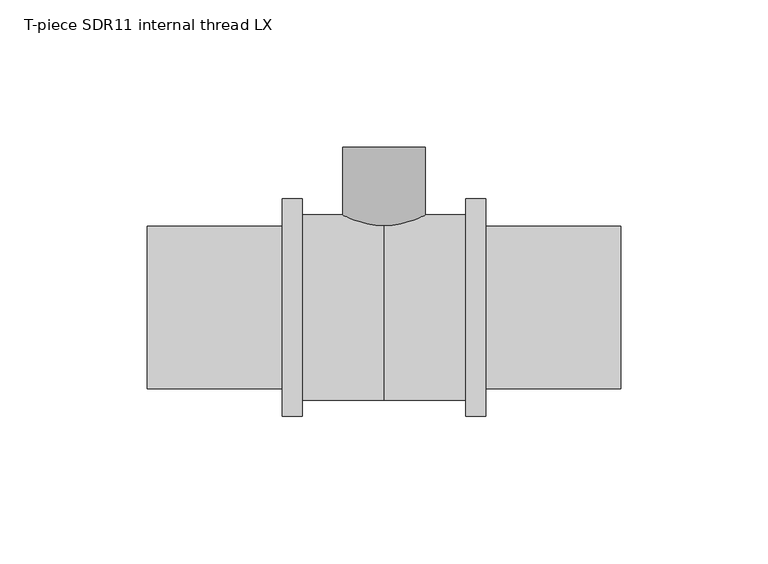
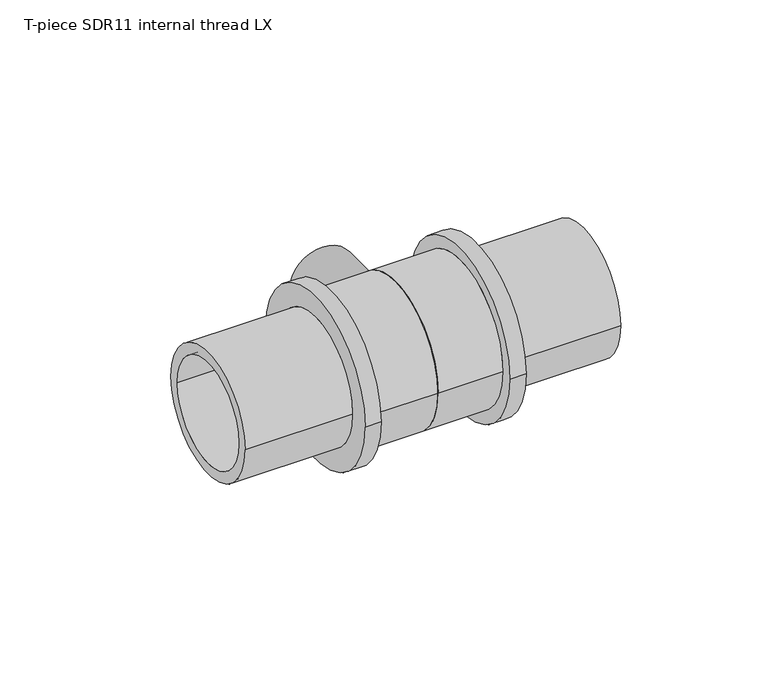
"""IFC4 building model written with IfcOpenShell, lengths in millimetres: pipe fitting geometry, T-piece SDR11 internal thread LX : T-piece LX SDR11 internal LX."""

from ifc_helpers import new_model, si_unit, point, frame, origin, place, context, project, spatial, polyline, circle_curve, ellipse_curve, trimmed, source, transform, mapped, element, save
from ifc_brep_helpers import plane_surface, cylinder_surface, revolved_surface, advanced_brep


def t_piece_sdr11_internal_thread_lx_0327bc4c(model_context):
    return source(origin(), model_context, "Body", "AdvancedBrep", [
        advanced_brep(
        [(9.95, 9.45, 0.0), (-9.95, 9.45, 0.0), (-9.95, 54.5, 0.0), (9.95, 54.5, 0.0), (0.5, 0.0, 0.0), (-0.5, 0.0, 0.0), (13.2683856, 7.0408207, 0.0), (-13.2683856, 7.0408207, 0.0), (-6.2275649, 0.0, 0.0), (6.2275649, 0.0, 0.0), (14.0, 8.8070941, 0.0), (-14.0, 8.8070941, 0.0), (14.0, 54.5, 0.0), (-14.0, 54.5, 0.0)],
        [
            (0, 1, circle_curve(frame((0.0, 9.45, 0.0), z_axis=(0.0, -1.0, 0.0), x_axis=(-1.0, 0.0, 0.0)), 9.95)),
            (1, 2),
            (2, 3, circle_curve(frame((0.0, 54.5, 0.0), z_axis=(0.0, 1.0, 0.0), x_axis=(-1.0, 0.0, 0.0)), 9.95)),
            (3, 0),
            (4, 5, circle_curve(frame((0.0, 0.0, 0.0), z_axis=(0.0, -1.0, 0.0), x_axis=(-1.0, 0.0, 0.0)), 0.5)),
            (5, 1),
            (0, 4),
            (6, 7, circle_curve(frame((0.0, 7.0408207, 0.0), z_axis=(0.0, -1.0, 0.0), x_axis=(-1.0, 0.0, 0.0)), 13.2683856)),
            (7, 8),
            (8, 9, circle_curve(frame((0.0, 0.0, 0.0), z_axis=(0.0, 1.0, 0.0), x_axis=(-1.0, 0.0, 0.0)), 6.2275649)),
            (9, 6),
            (10, 11, circle_curve(frame((0.0, 8.8070941, 0.0), z_axis=(0.0, -1.0, 0.0), x_axis=(-1.0, 0.0, 0.0)), 14.0)),
            (11, 7, circle_curve(frame((-9.95, 9.45, 0.0), z_axis=(0.0, 0.0, 1.0), x_axis=(0.0, 1.0, 0.0)), 4.1007107)),
            (6, 10, circle_curve(frame((9.95, 9.45, 0.0), z_axis=(0.0, 0.0, 1.0), x_axis=(0.0, 1.0, 0.0)), 4.1007107)),
            (12, 13, circle_curve(frame((0.0, 54.5, 0.0), z_axis=(0.0, -1.0, 0.0), x_axis=(-1.0, 0.0, 0.0)), 14.0)),
            (13, 11),
            (10, 12),
            (12, 13, circle_curve(frame((0.0, 54.5, 0.0), z_axis=(0.0, 1.0, 0.0), x_axis=(1.0, 0.0, 0.0)), 14.0)),
            (2, 3, circle_curve(frame((0.0, 54.5, 0.0), z_axis=(0.0, -1.0, 0.0), x_axis=(1.0, 0.0, 0.0)), 9.95)),
            (1, 0, circle_curve(frame((0.0, 9.45, 0.0), z_axis=(0.0, -1.0, 0.0), x_axis=(1.0, 0.0, 0.0)), 9.95)),
            (5, 4, circle_curve(frame((0.0, 0.0, 0.0), z_axis=(0.0, -1.0, 0.0), x_axis=(1.0, 0.0, 0.0)), 0.5)),
            (8, 9, circle_curve(frame((0.0, 0.0, 0.0), z_axis=(0.0, -1.0, 0.0), x_axis=(1.0, 0.0, 0.0)), 6.2275649)),
            (7, 6, circle_curve(frame((0.0, 7.0408207, 0.0), z_axis=(0.0, -1.0, 0.0), x_axis=(1.0, 0.0, 0.0)), 13.2683856)),
            (11, 10, circle_curve(frame((0.0, 8.8070941, 0.0), z_axis=(0.0, -1.0, 0.0), x_axis=(1.0, 0.0, 0.0)), 14.0)),
        ],
        [
            revolved_surface(polyline([(-9.95, 54.5, 0.0), (-9.95, 9.45, 0.0)]), (0.0, 0.0, 0.0), (0.0, 1.0, 0.0)),
            revolved_surface(polyline([(-9.95, 9.45, 0.0), (-0.5, 0.0, 0.0)]), (0.0, 0.0, 0.0), (0.0, 1.0, 0.0)),
            revolved_surface(polyline([(-6.2275649, 0.0, 0.0), (-13.2683856, 7.0408207, 0.0)]), (0.0, 0.0, 0.0), (0.0, 1.0, 0.0)),
            revolved_surface(trimmed(ellipse_curve(frame((-9.95, 9.45, 0.0), z_axis=(0.0, 0.0, -1.0), x_axis=(0.0, 1.0, 0.0)), 4.1007107, 4.1007107), [point((-13.2683856, 7.0408207, 0.0))], [point((-14.0, 8.8070941, 0.0))], True, "CARTESIAN"), (0.0, 0.0, 0.0), (0.0, 1.0, 0.0)),
            cylinder_surface(frame((0.0, 0.0, 0.0), z_axis=(0.0, 1.0, 0.0), x_axis=(-1.0, 0.0, 0.0)), 14.0),
            plane_surface(frame((0.0, 54.5, 0.0), z_axis=(0.0, 1.0, 0.0), x_axis=(1.0, 0.0, 0.0))),
            revolved_surface(polyline([(9.95, 54.5, 0.0), (9.95, 9.45, 0.0)]), (0.0, 0.0, 0.0), (0.0, 1.0, 0.0)),
            revolved_surface(polyline([(9.95, 9.45, 0.0), (0.5, 0.0, 0.0)]), (0.0, 0.0, 0.0), (0.0, 1.0, 0.0)),
            plane_surface(frame((0.0, 0.0, 0.0), z_axis=(0.0, -1.0, 0.0), x_axis=(1.0, 0.0, 0.0))),
            revolved_surface(polyline([(6.2275649, 0.0, 0.0), (13.2683856, 7.0408207, 0.0)]), (0.0, 0.0, 0.0), (0.0, 1.0, 0.0)),
            revolved_surface(trimmed(ellipse_curve(frame((9.95, 9.45, 0.0), z_axis=(0.0, 0.0, 1.0), x_axis=(0.0, 1.0, 0.0)), 4.1007107, 4.1007107), [point((13.2683856, 7.0408207, 0.0))], [point((14.0, 8.8070941, 0.0))], True, "CARTESIAN"), (0.0, 0.0, 0.0), (0.0, 1.0, 0.0)),
            cylinder_surface(frame((0.0, 0.0, 0.0), z_axis=(0.0, 1.0, 0.0), x_axis=(1.0, 0.0, 0.0)), 14.0),
        ],
        [
            (0, [[1, 2, 3, 4]]),
            (1, [[5, 6, -1, 7]]),
            (2, [[8, 9, 10, 11]]),
            (3, [[12, 13, -8, 14]]),
            (4, [[15, 16, -12, 17]]),
            (5, [[18, -15], [19, -3]]),
            (6, [[20, -4, -19, -2]]),
            (7, [[21, -7, -20, -6]]),
            (8, [[22, -10], [-21, -5]]),
            (9, [[23, -11, -22, -9]]),
            (10, [[24, -14, -23, -13]]),
            (11, [[-18, -17, -24, -16]]),
        ],
    ),
        advanced_brep(
        [(34.5, 37.0, 0.0), (34.5, -37.0, 0.0), (27.7, -37.0, 0.0), (27.7, 37.0, 0.0), (80.5, 27.55, 0.0), (80.5, -27.55, 0.0), (34.5, -27.55, 0.0), (34.5, 27.55, 0.0), (0.0, 22.75, 0.0), (0.0, -22.75, 0.0), (80.5, -22.75, 0.0), (80.5, 22.75, 0.0), (27.7, 31.5, 0.0), (27.7, -31.5, 0.0), (0.0, -31.5, 0.0), (0.0, 31.5, 0.0)],
        [
            (0, 1, circle_curve(frame((34.5, 0.0, 0.0), z_axis=(-1.0, 0.0, 0.0), x_axis=(0.0, -1.0, 0.0)), 37.0)),
            (1, 2),
            (2, 3, circle_curve(frame((27.7, 0.0, 0.0), z_axis=(1.0, 0.0, 0.0), x_axis=(0.0, -1.0, 0.0)), 37.0)),
            (3, 0),
            (4, 5, circle_curve(frame((80.5, 0.0, 0.0), z_axis=(-1.0, 0.0, 0.0), x_axis=(0.0, -1.0, 0.0)), 27.55)),
            (5, 6),
            (6, 7, circle_curve(frame((34.5, 0.0, 0.0), z_axis=(1.0, 0.0, 0.0), x_axis=(0.0, -1.0, 0.0)), 27.55)),
            (7, 4),
            (8, 9, circle_curve(frame((0.0, 0.0, 0.0), z_axis=(-1.0, 0.0, 0.0), x_axis=(0.0, -1.0, 0.0)), 22.75)),
            (9, 10),
            (10, 11, circle_curve(frame((80.5, 0.0, 0.0), z_axis=(1.0, 0.0, 0.0), x_axis=(0.0, -1.0, 0.0)), 22.75)),
            (11, 8),
            (12, 13, circle_curve(frame((27.7, 0.0, 0.0), z_axis=(-1.0, 0.0, 0.0), x_axis=(0.0, -1.0, 0.0)), 31.5)),
            (13, 14),
            (14, 15, circle_curve(frame((0.0, 0.0, 0.0), z_axis=(1.0, 0.0, 0.0), x_axis=(0.0, -1.0, 0.0)), 31.5)),
            (15, 12),
            (1, 0, circle_curve(frame((34.5, 0.0, 0.0), z_axis=(-1.0, 0.0, 0.0), x_axis=(0.0, 1.0, 0.0)), 37.0)),
            (3, 2, circle_curve(frame((27.7, 0.0, 0.0), z_axis=(1.0, 0.0, 0.0), x_axis=(0.0, 1.0, 0.0)), 37.0)),
            (6, 7, circle_curve(frame((34.5, 0.0, 0.0), z_axis=(-1.0, 0.0, 0.0), x_axis=(0.0, 1.0, 0.0)), 27.55)),
            (5, 4, circle_curve(frame((80.5, 0.0, 0.0), z_axis=(-1.0, 0.0, 0.0), x_axis=(0.0, 1.0, 0.0)), 27.55)),
            (10, 11, circle_curve(frame((80.5, 0.0, 0.0), z_axis=(-1.0, 0.0, 0.0), x_axis=(0.0, 1.0, 0.0)), 22.75)),
            (9, 8, circle_curve(frame((0.0, 0.0, 0.0), z_axis=(-1.0, 0.0, 0.0), x_axis=(0.0, 1.0, 0.0)), 22.75)),
            (14, 15, circle_curve(frame((0.0, 0.0, 0.0), z_axis=(-1.0, 0.0, 0.0), x_axis=(0.0, 1.0, 0.0)), 31.5)),
            (13, 12, circle_curve(frame((27.7, 0.0, 0.0), z_axis=(-1.0, 0.0, 0.0), x_axis=(0.0, 1.0, 0.0)), 31.5)),
        ],
        [
            cylinder_surface(frame((0.0, 0.0, 0.0), z_axis=(1.0, 0.0, 0.0), x_axis=(0.0, -1.0, 0.0)), 37.0),
            cylinder_surface(frame((0.0, 0.0, 0.0), z_axis=(1.0, 0.0, 0.0), x_axis=(0.0, -1.0, 0.0)), 27.55),
            revolved_surface(polyline([(80.5, -22.75, 0.0), (0.0, -22.75, 0.0)]), (0.0, 0.0, 0.0), (1.0, 0.0, 0.0)),
            cylinder_surface(frame((0.0, 0.0, 0.0), z_axis=(1.0, 0.0, 0.0), x_axis=(0.0, -1.0, 0.0)), 31.5),
            cylinder_surface(frame((0.0, 0.0, 0.0), z_axis=(1.0, 0.0, 0.0), x_axis=(0.0, 1.0, 0.0)), 37.0),
            plane_surface(frame((34.5, 0.0, 0.0), z_axis=(1.0, 0.0, 0.0), x_axis=(0.0, 1.0, 0.0))),
            cylinder_surface(frame((0.0, 0.0, 0.0), z_axis=(1.0, 0.0, 0.0), x_axis=(0.0, 1.0, 0.0)), 27.55),
            plane_surface(frame((80.5, 0.0, 0.0), z_axis=(1.0, 0.0, 0.0), x_axis=(0.0, 1.0, 0.0))),
            revolved_surface(polyline([(80.5, 22.75, 0.0), (0.0, 22.75, 0.0)]), (0.0, 0.0, 0.0), (1.0, 0.0, 0.0)),
            plane_surface(frame((0.0, 0.0, 0.0), z_axis=(-1.0, 0.0, 0.0), x_axis=(0.0, 1.0, 0.0))),
            cylinder_surface(frame((0.0, 0.0, 0.0), z_axis=(1.0, 0.0, 0.0), x_axis=(0.0, 1.0, 0.0)), 31.5),
            plane_surface(frame((27.7, 0.0, 0.0), z_axis=(-1.0, 0.0, 0.0), x_axis=(0.0, 1.0, 0.0))),
        ],
        [
            (0, [[1, 2, 3, 4]]),
            (1, [[5, 6, 7, 8]]),
            (2, [[9, 10, 11, 12]]),
            (3, [[13, 14, 15, 16]]),
            (4, [[17, -4, 18, -2]]),
            (5, [[-17, -1], [19, -7]]),
            (6, [[20, -8, -19, -6]]),
            (7, [[-20, -5], [21, -11]]),
            (8, [[22, -12, -21, -10]]),
            (9, [[23, -15], [-22, -9]]),
            (10, [[24, -16, -23, -14]]),
            (11, [[-18, -3], [-24, -13]]),
        ],
    ),
        advanced_brep(
        [(0.0, 31.5, 0.0), (0.0, -31.5, 0.0), (-27.7, -31.5, 0.0), (-27.7, 31.5, 0.0), (-80.5, 22.75, 0.0), (-80.5, -22.75, 0.0), (0.0, -22.75, 0.0), (0.0, 22.75, 0.0), (-34.5, 27.55, 0.0), (-34.5, -27.55, 0.0), (-80.5, -27.55, 0.0), (-80.5, 27.55, 0.0), (-27.7, 37.0, 0.0), (-27.7, -37.0, 0.0), (-34.5, -37.0, 0.0), (-34.5, 37.0, 0.0)],
        [
            (0, 1, circle_curve(frame((0.0, 0.0, 0.0), z_axis=(-1.0, 0.0, 0.0), x_axis=(0.0, -1.0, 0.0)), 31.5)),
            (1, 2),
            (2, 3, circle_curve(frame((-27.7, 0.0, 0.0), z_axis=(1.0, 0.0, 0.0), x_axis=(0.0, -1.0, 0.0)), 31.5)),
            (3, 0),
            (4, 5, circle_curve(frame((-80.5, 0.0, 0.0), z_axis=(-1.0, 0.0, 0.0), x_axis=(0.0, -1.0, 0.0)), 22.75)),
            (5, 6),
            (6, 7, circle_curve(frame((0.0, 0.0, 0.0), z_axis=(1.0, 0.0, 0.0), x_axis=(0.0, -1.0, 0.0)), 22.75)),
            (7, 4),
            (8, 9, circle_curve(frame((-34.5, 0.0, 0.0), z_axis=(-1.0, 0.0, 0.0), x_axis=(0.0, -1.0, 0.0)), 27.55)),
            (9, 10),
            (10, 11, circle_curve(frame((-80.5, 0.0, 0.0), z_axis=(1.0, 0.0, 0.0), x_axis=(0.0, -1.0, 0.0)), 27.55)),
            (11, 8),
            (12, 13, circle_curve(frame((-27.7, 0.0, 0.0), z_axis=(-1.0, 0.0, 0.0), x_axis=(0.0, -1.0, 0.0)), 37.0)),
            (13, 14),
            (14, 15, circle_curve(frame((-34.5, 0.0, 0.0), z_axis=(1.0, 0.0, 0.0), x_axis=(0.0, -1.0, 0.0)), 37.0)),
            (15, 12),
            (12, 13, circle_curve(frame((-27.7, 0.0, 0.0), z_axis=(1.0, 0.0, 0.0), x_axis=(0.0, 1.0, 0.0)), 37.0)),
            (2, 3, circle_curve(frame((-27.7, 0.0, 0.0), z_axis=(-1.0, 0.0, 0.0), x_axis=(0.0, 1.0, 0.0)), 31.5)),
            (1, 0, circle_curve(frame((0.0, 0.0, 0.0), z_axis=(-1.0, 0.0, 0.0), x_axis=(0.0, 1.0, 0.0)), 31.5)),
            (6, 7, circle_curve(frame((0.0, 0.0, 0.0), z_axis=(-1.0, 0.0, 0.0), x_axis=(0.0, 1.0, 0.0)), 22.75)),
            (5, 4, circle_curve(frame((-80.5, 0.0, 0.0), z_axis=(-1.0, 0.0, 0.0), x_axis=(0.0, 1.0, 0.0)), 22.75)),
            (10, 11, circle_curve(frame((-80.5, 0.0, 0.0), z_axis=(-1.0, 0.0, 0.0), x_axis=(0.0, 1.0, 0.0)), 27.55)),
            (9, 8, circle_curve(frame((-34.5, 0.0, 0.0), z_axis=(-1.0, 0.0, 0.0), x_axis=(0.0, 1.0, 0.0)), 27.55)),
            (14, 15, circle_curve(frame((-34.5, 0.0, 0.0), z_axis=(-1.0, 0.0, 0.0), x_axis=(0.0, 1.0, 0.0)), 37.0)),
        ],
        [
            cylinder_surface(frame((0.0, 0.0, 0.0), z_axis=(1.0, 0.0, 0.0), x_axis=(0.0, -1.0, 0.0)), 31.5),
            revolved_surface(polyline([(0.0, -22.75, 0.0), (-80.5, -22.75, 0.0)]), (0.0, 0.0, 0.0), (1.0, 0.0, 0.0)),
            cylinder_surface(frame((0.0, 0.0, 0.0), z_axis=(1.0, 0.0, 0.0), x_axis=(0.0, -1.0, 0.0)), 27.55),
            cylinder_surface(frame((0.0, 0.0, 0.0), z_axis=(1.0, 0.0, 0.0), x_axis=(0.0, -1.0, 0.0)), 37.0),
            plane_surface(frame((-27.7, 0.0, 0.0), z_axis=(1.0, 0.0, 0.0), x_axis=(0.0, 1.0, 0.0))),
            cylinder_surface(frame((0.0, 0.0, 0.0), z_axis=(1.0, 0.0, 0.0), x_axis=(0.0, 1.0, 0.0)), 31.5),
            plane_surface(frame((0.0, 0.0, 0.0), z_axis=(1.0, 0.0, 0.0), x_axis=(0.0, 1.0, 0.0))),
            revolved_surface(polyline([(0.0, 22.75, 0.0), (-80.5, 22.75, 0.0)]), (0.0, 0.0, 0.0), (1.0, 0.0, 0.0)),
            plane_surface(frame((-80.5, 0.0, 0.0), z_axis=(-1.0, 0.0, 0.0), x_axis=(0.0, 1.0, 0.0))),
            cylinder_surface(frame((0.0, 0.0, 0.0), z_axis=(1.0, 0.0, 0.0), x_axis=(0.0, 1.0, 0.0)), 27.55),
            plane_surface(frame((-34.5, 0.0, 0.0), z_axis=(-1.0, 0.0, 0.0), x_axis=(0.0, 1.0, 0.0))),
            cylinder_surface(frame((0.0, 0.0, 0.0), z_axis=(1.0, 0.0, 0.0), x_axis=(0.0, 1.0, 0.0)), 37.0),
        ],
        [
            (0, [[1, 2, 3, 4]]),
            (1, [[5, 6, 7, 8]]),
            (2, [[9, 10, 11, 12]]),
            (3, [[13, 14, 15, 16]]),
            (4, [[17, -13], [18, -3]]),
            (5, [[19, -4, -18, -2]]),
            (6, [[-19, -1], [20, -7]]),
            (7, [[21, -8, -20, -6]]),
            (8, [[22, -11], [-21, -5]]),
            (9, [[23, -12, -22, -10]]),
            (10, [[24, -15], [-23, -9]]),
            (11, [[-17, -16, -24, -14]]),
        ],
    ),
    ])


if __name__ == "__main__":
    model = new_model("IFC4")
    model_context = context("Model", 3, world=origin())
    ifc_project = project(units=[si_unit("LENGTHUNIT", "METRE", prefix="MILLI")], contexts=[model_context])
    site = spatial("IfcSite", under=ifc_project)
    building = spatial("IfcBuilding", under=site)
    placement = place(None, origin())
    t_piece_sdr11_internal_thread_lx_shape = t_piece_sdr11_internal_thread_lx_0327bc4c(model_context)
    element("IfcPipeFitting", 1, ObjectType="T-piece SDR11 internal thread LX : T-piece LX SDR11 internal LX", at=placement, inside=building, context=model_context, shape_type="MappedRepresentation", body=[
        mapped(t_piece_sdr11_internal_thread_lx_shape, transform((0.0, 0.0, 0.0), x_axis=(1.0, 0.0, 0.0), y_axis=(0.0, 1.0, 0.0), z_axis=(0.0, 0.0, 1.0))),
    ])
    save(model, "model.ifc")
